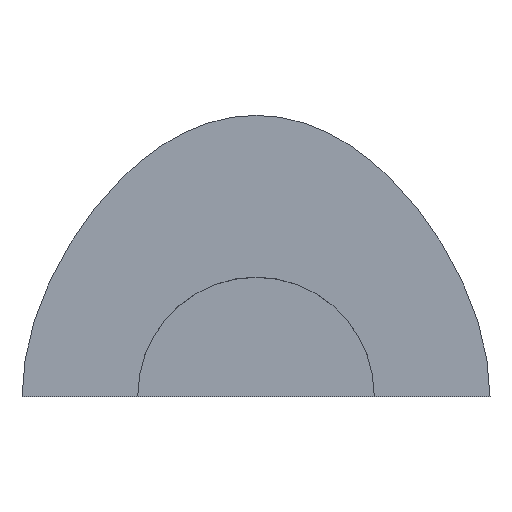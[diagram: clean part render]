
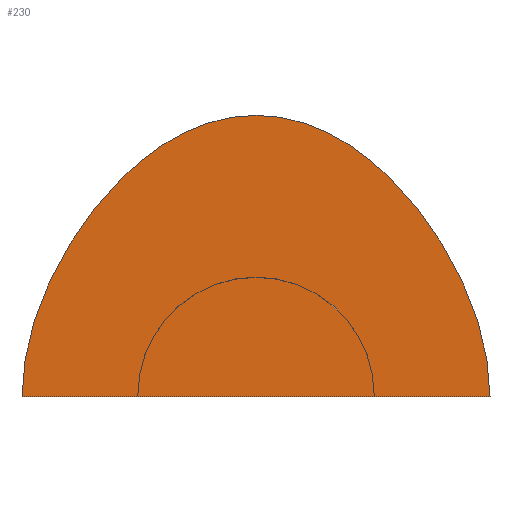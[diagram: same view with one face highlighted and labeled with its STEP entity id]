
A CAD part, top view. The second image highlights one B-rep face of the part: STEP entity #230.
In plain terms, the highlighted planar face has unit normal (0, 0, 1).
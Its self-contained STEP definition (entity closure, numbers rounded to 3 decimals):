
#193=CARTESIAN_POINT('Axis2P3D Location',(0.,48.245,0.)) ;
#198=CARTESIAN_POINT('Line Origine',(0.,0.,0.)) ;
#202=CARTESIAN_POINT('Vertex',(-99.,0.,0.)) ;
#204=CARTESIAN_POINT('Vertex',(99.,0.,0.)) ;
#208=CARTESIAN_POINT('Control Point',(0.,119.,0.)) ;
#209=CARTESIAN_POINT('Control Point',(30.959,119.,0.)) ;
#210=CARTESIAN_POINT('Control Point',(59.579,100.86,0.)) ;
#211=CARTESIAN_POINT('Control Point',(85.86,64.579,0.)) ;
#212=CARTESIAN_POINT('Control Point',(99.,30.959,0.)) ;
#213=CARTESIAN_POINT('Control Point',(99.,0.,0.)) ;
#214=CARTESIAN_POINT('Vertex',(0.,119.,0.)) ;
#218=CARTESIAN_POINT('Control Point',(0.,119.,0.)) ;
#219=CARTESIAN_POINT('Control Point',(-30.959,119.,0.)) ;
#220=CARTESIAN_POINT('Control Point',(-59.579,100.86,0.)) ;
#221=CARTESIAN_POINT('Control Point',(-85.86,64.579,0.)) ;
#222=CARTESIAN_POINT('Control Point',(-99.,30.959,0.)) ;
#223=CARTESIAN_POINT('Control Point',(-99.,0.,0.)) ;
#194=DIRECTION('Axis2P3D Direction',(0.,0.,1.)) ;
#195=DIRECTION('Axis2P3D XDirection',(1.,0.,0.)) ;
#199=DIRECTION('Vector Direction',(1.,0.,0.)) ;
#196=AXIS2_PLACEMENT_3D('Plane Axis2P3D',#193,#194,#195) ;
#226=ORIENTED_EDGE('',*,*,#206,.T.) ;
#227=ORIENTED_EDGE('',*,*,#216,.T.) ;
#228=ORIENTED_EDGE('',*,*,#224,.T.) ;
#200=VECTOR('Line Direction',#199,1.) ;
#230=ADVANCED_FACE('Fill.1',(#229),#197,.T.) ;
#207=B_SPLINE_CURVE_WITH_KNOTS('',5,(#208,#209,#210,#211,#212,#213),.UNSPECIFIED.,.F.,.U.,(6,6),(0.,154.797),.UNSPECIFIED.) ;
#217=B_SPLINE_CURVE_WITH_KNOTS('',5,(#218,#219,#220,#221,#222,#223),.UNSPECIFIED.,.F.,.U.,(6,6),(0.,154.797),.UNSPECIFIED.) ;
#206=EDGE_CURVE('',#203,#205,#201,.T.) ;
#216=EDGE_CURVE('',#205,#215,#207,.F.) ;
#224=EDGE_CURVE('',#215,#203,#217,.T.) ;
#225=EDGE_LOOP('',(#226,#227,#228)) ;
#229=FACE_OUTER_BOUND('',#225,.T.) ;
#201=LINE('Line',#198,#200) ;
#197=PLANE('',#196) ;
#203=VERTEX_POINT('',#202) ;
#205=VERTEX_POINT('',#204) ;
#215=VERTEX_POINT('',#214) ;
